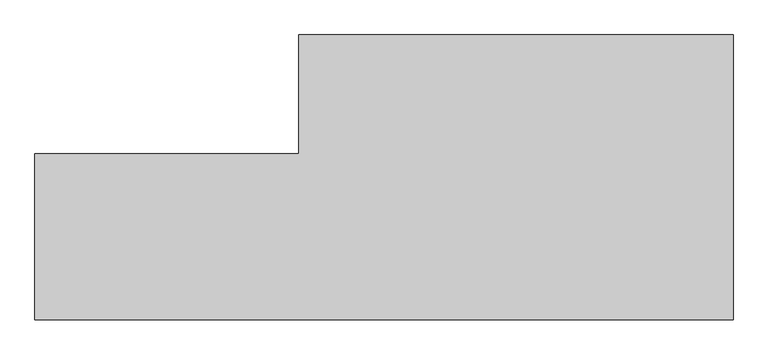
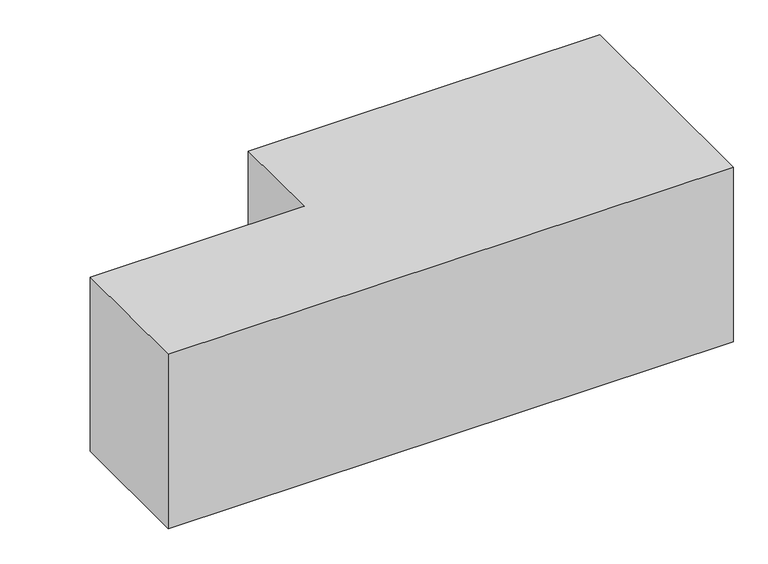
"""IFC4 building model written with IfcOpenShell, lengths in millimetres: proxy geometry."""

from ifc_helpers import new_model, si_unit, origin, origin_with_axes, place, context, project, spatial, polyline, outline, extrude, source, transform, mapped, element, save


def generic_models_cf47f3a4(model_context):
    return source(origin(), model_context, "Body", "SweptSolid", [
        extrude(outline(polyline([(-96979.9999698, -33525.2180652), (-104646.1304765, -33525.2180652), (-104646.1304765, -31700.7903364), (-101748.3455046, -31700.7903364), (-101748.3455046, -30395.2180652), (-96979.9999698, -30395.2180652), (-96979.9999698, -33525.2180652)])), origin_with_axes(), (0.0, 0.0, 1.0), 2500.0),
    ])


if __name__ == "__main__":
    model = new_model("IFC4")
    model_context = context("Model", 3, world=origin())
    ifc_project = project(units=[si_unit("LENGTHUNIT", "METRE", prefix="MILLI")], contexts=[model_context])
    site = spatial("IfcSite", under=ifc_project)
    building = spatial("IfcBuilding", under=site)
    placement = place(None, origin())
    generic_models_shape = generic_models_cf47f3a4(model_context)
    element("IfcBuildingElementProxy", 1, Name="Generic Models", at=placement, inside=building, context=model_context, shape_type="MappedRepresentation", body=[
        mapped(generic_models_shape, transform((0.0, 0.0, 0.0), x_axis=(1.0, 0.0, 0.0), y_axis=(0.0, 1.0, 0.0), z_axis=(0.0, 0.0, 1.0))),
    ])
    save(model, "model.ifc")
